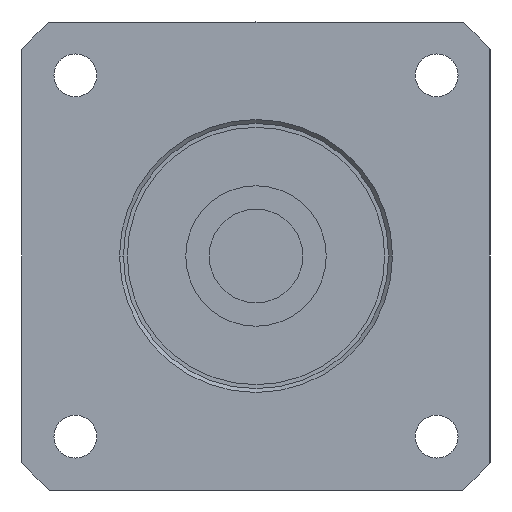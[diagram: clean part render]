
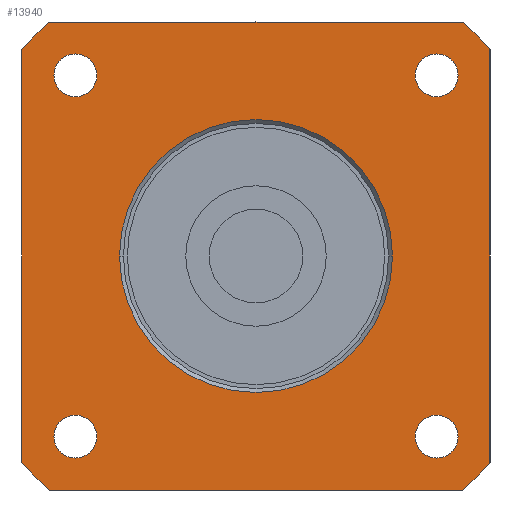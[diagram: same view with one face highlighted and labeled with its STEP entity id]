
A CAD part, left-side view. The second image highlights one B-rep face of the part: STEP entity #13940.
In plain terms, the highlighted planar face has unit normal (-1, 0, 0) as drawn and (0, 0, -1) by its records, which use the part's own axes.
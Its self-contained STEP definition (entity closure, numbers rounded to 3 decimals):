
#8700=CARTESIAN_POINT('',(-23.158,25.908,-35.));
#8710=VERTEX_POINT('',#8700);
#8870=CARTESIAN_POINT('',(-23.158,20.408,-35.));
#8880=VERTEX_POINT('',#8870);
#8910=CARTESIAN_POINT('',(-23.158,23.158,-35.));
#8920=DIRECTION('',(0.,0.,1.));
#8930=DIRECTION('',(0.,1.,0.));
#8940=AXIS2_PLACEMENT_3D('',#8910,#8920,#8930);
#8950=CIRCLE('',#8940,2.75);
#8960=EDGE_CURVE('',#8880,#8710,#8950,.T.);
#12320=CARTESIAN_POINT('',(17.5,0.,-35.));
#12330=VERTEX_POINT('',#12320);
#12360=CARTESIAN_POINT('',(0.,0.,
-35.));
#12370=DIRECTION('',(0.,0.,1.));
#12380=DIRECTION('',(0.,1.,0.));
#12390=AXIS2_PLACEMENT_3D('',#12360,#12370,#12380);
#12400=CIRCLE('',#12390,17.5);
#12410=CARTESIAN_POINT('',(0.,17.5,-35.));
#12420=VERTEX_POINT('',#12410);
#12430=EDGE_CURVE('',#12330,#12420,#12400,.T.);
#12450=CARTESIAN_POINT('',(-17.5,0.,-35.));
#12460=VERTEX_POINT('',#12450);
#12470=EDGE_CURVE('',#12420,#12460,#12400,.T.);
#12630=CARTESIAN_POINT('',(0.,-40.,-35.));
#12640=DIRECTION('',(0.,0.,1.));
#12650=DIRECTION('',(0.,1.,0.));
#12660=AXIS2_PLACEMENT_3D('',#12630,#12640,#12650);
#12670=PLANE('',#12660);
#12680=EDGE_CURVE('',#12460,#12330,#12400,.T.);
#12690=ORIENTED_EDGE('',*,*,#12680,.T.);
#12700=ORIENTED_EDGE('',*,*,#12470,.T.);
#12710=ORIENTED_EDGE('',*,*,#12430,.T.);
#12720=EDGE_LOOP('',(#12710,#12700,#12690));
#12730=FACE_BOUND('',#12720,.T.);
#12740=CARTESIAN_POINT('',(23.158,-23.158,-35.));
#12750=DIRECTION('',(0.,0.,1.));
#12760=DIRECTION('',(0.,1.,0.));
#12770=AXIS2_PLACEMENT_3D('',#12740,#12750,#12760);
#12780=CIRCLE('',#12770,2.75);
#12790=CARTESIAN_POINT('',(23.158,-20.408,-35.));
#12800=VERTEX_POINT('',#12790);
#12810=CARTESIAN_POINT('',(23.158,-25.908,-35.));
#12820=VERTEX_POINT('',#12810);
#12830=EDGE_CURVE('',#12800,#12820,#12780,.T.);
#12840=ORIENTED_EDGE('',*,*,#12830,.T.);
#12850=EDGE_CURVE('',#12820,#12800,#12780,.T.);
#12860=ORIENTED_EDGE('',*,*,#12850,.T.);
#12870=EDGE_LOOP('',(#12860,#12840));
#12880=FACE_BOUND('',#12870,.T.);
#12890=CARTESIAN_POINT('',(-23.158,-23.158,-35.));
#12900=DIRECTION('',(0.,0.,1.));
#12910=DIRECTION('',(0.,1.,0.));
#12920=AXIS2_PLACEMENT_3D('',#12890,#12900,#12910);
#12930=CIRCLE('',#12920,2.75);
#12940=CARTESIAN_POINT('',(-23.158,-20.408,-35.));
#12950=VERTEX_POINT('',#12940);
#12960=CARTESIAN_POINT('',(-23.158,-25.908,-35.));
#12970=VERTEX_POINT('',#12960);
#12980=EDGE_CURVE('',#12950,#12970,#12930,.T.);
#12990=ORIENTED_EDGE('',*,*,#12980,.T.);
#13000=EDGE_CURVE('',#12970,#12950,#12930,.T.);
#13010=ORIENTED_EDGE('',*,*,#13000,.T.);
#13020=EDGE_LOOP('',(#13010,#12990));
#13030=FACE_BOUND('',#13020,.T.);
#13040=EDGE_CURVE('',#8710,#8880,#8950,.T.);
#13050=ORIENTED_EDGE('',*,*,#13040,.T.);
#13060=ORIENTED_EDGE('',*,*,#8960,.T.);
#13070=EDGE_LOOP('',(#13060,#13050));
#13080=FACE_BOUND('',#13070,.T.);
#13090=CARTESIAN_POINT('',(23.158,23.158,-35.));
#13100=DIRECTION('',(0.,0.,1.));
#13110=DIRECTION('',(0.,1.,0.));
#13120=AXIS2_PLACEMENT_3D('',#13090,#13100,#13110);
#13130=CIRCLE('',#13120,2.75);
#13140=CARTESIAN_POINT('',(23.158,25.908,-35.));
#13150=VERTEX_POINT('',#13140);
#13160=CARTESIAN_POINT('',(23.158,20.408,-35.));
#13170=VERTEX_POINT('',#13160);
#13180=EDGE_CURVE('',#13150,#13170,#13130,.T.);
#13190=ORIENTED_EDGE('',*,*,#13180,.T.);
#13200=EDGE_CURVE('',#13170,#13150,#13130,.T.);
#13210=ORIENTED_EDGE('',*,*,#13200,.T.);
#13220=EDGE_LOOP('',(#13210,#13190));
#13230=FACE_BOUND('',#13220,.T.);
#13240=CARTESIAN_POINT('',(0.,0.,
-35.));
#13250=DIRECTION('',(0.,0.,1.));
#13260=DIRECTION('',(0.,1.,0.));
#13270=AXIS2_PLACEMENT_3D('',#13240,#13250,#13260);
#13280=CIRCLE('',#13270,40.);
#13290=CARTESIAN_POINT('',(-30.,-26.458,-35.));
#13300=VERTEX_POINT('',#13290);
#13310=CARTESIAN_POINT('',(-26.458,-30.,-35.));
#13320=VERTEX_POINT('',#13310);
#13330=EDGE_CURVE('',#13300,#13320,#13280,.T.);
#13340=ORIENTED_EDGE('',*,*,#13330,.F.);
#13350=CARTESIAN_POINT('',(30.,-30.,-35.));
#13360=DIRECTION('',(-1.,0.,0.));
#13370=VECTOR('',#13360,1000.);
#13380=LINE('',#13350,#13370);
#13390=CARTESIAN_POINT('',(26.458,-30.,-35.));
#13400=VERTEX_POINT('',#13390);
#13410=EDGE_CURVE('',#13400,#13320,#13380,.T.);
#13420=ORIENTED_EDGE('',*,*,#13410,.T.);
#13430=CARTESIAN_POINT('',(0.,0.,
-35.));
#13440=DIRECTION('',(0.,0.,1.));
#13450=DIRECTION('',(0.,1.,0.));
#13460=AXIS2_PLACEMENT_3D('',#13430,#13440,#13450);
#13470=CIRCLE('',#13460,40.);
#13480=CARTESIAN_POINT('',(30.,-26.458,-35.));
#13490=VERTEX_POINT('',#13480);
#13500=EDGE_CURVE('',#13400,#13490,#13470,.T.);
#13510=ORIENTED_EDGE('',*,*,#13500,.F.);
#13520=CARTESIAN_POINT('',(30.,30.,-35.));
#13530=DIRECTION('',(0.,-1.,0.));
#13540=VECTOR('',#13530,1000.);
#13550=LINE('',#13520,#13540);
#13560=CARTESIAN_POINT('',(30.,26.458,-35.));
#13570=VERTEX_POINT('',#13560);
#13580=EDGE_CURVE('',#13570,#13490,#13550,.T.);
#13590=ORIENTED_EDGE('',*,*,#13580,.T.);
#13600=CARTESIAN_POINT('',(0.,0.,
-35.));
#13610=DIRECTION('',(0.,0.,1.));
#13620=DIRECTION('',(0.,1.,0.));
#13630=AXIS2_PLACEMENT_3D('',#13600,#13610,#13620);
#13640=CIRCLE('',#13630,40.);
#13650=CARTESIAN_POINT('',(26.458,30.,-35.));
#13660=VERTEX_POINT('',#13650);
#13670=EDGE_CURVE('',#13570,#13660,#13640,.T.);
#13680=ORIENTED_EDGE('',*,*,#13670,.F.);
#13690=CARTESIAN_POINT('',(-30.,30.,-35.));
#13700=DIRECTION('',(1.,0.,0.));
#13710=VECTOR('',#13700,1000.);
#13720=LINE('',#13690,#13710);
#13730=CARTESIAN_POINT('',(-26.458,30.,-35.));
#13740=VERTEX_POINT('',#13730);
#13750=EDGE_CURVE('',#13740,#13660,#13720,.T.);
#13760=ORIENTED_EDGE('',*,*,#13750,.T.);
#13770=CARTESIAN_POINT('',(0.,0.,
-35.));
#13780=DIRECTION('',(0.,0.,1.));
#13790=DIRECTION('',(0.,1.,0.));
#13800=AXIS2_PLACEMENT_3D('',#13770,#13780,#13790);
#13810=CIRCLE('',#13800,40.);
#13820=CARTESIAN_POINT('',(-30.,26.458,-35.));
#13830=VERTEX_POINT('',#13820);
#13840=EDGE_CURVE('',#13740,#13830,#13810,.T.);
#13850=ORIENTED_EDGE('',*,*,#13840,.F.);
#13860=CARTESIAN_POINT('',(-30.,-30.,-35.));
#13870=DIRECTION('',(0.,1.,0.));
#13880=VECTOR('',#13870,1000.);
#13890=LINE('',#13860,#13880);
#13900=EDGE_CURVE('',#13300,#13830,#13890,.T.);
#13910=ORIENTED_EDGE('',*,*,#13900,.T.);
#13920=EDGE_LOOP('',(#13910,#13850,#13760,#13680,#13590,#13510,#13420,
#13340));
#13930=FACE_OUTER_BOUND('',#13920,.T.);
#13940=ADVANCED_FACE('',(#12730,#12880,#13030,#13080,#13230,#13930),
#12670,.F.);
